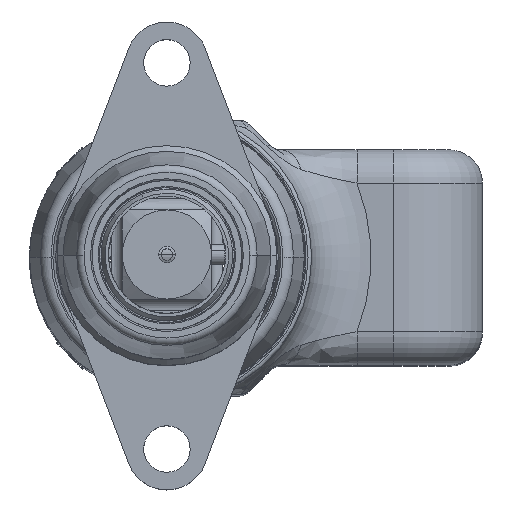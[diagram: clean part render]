
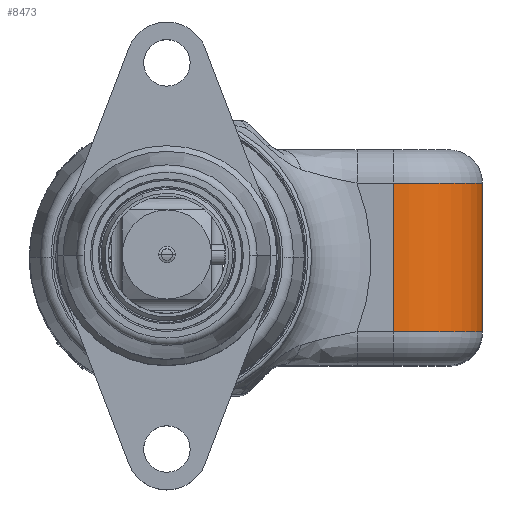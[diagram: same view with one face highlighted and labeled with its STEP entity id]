
A CAD part, top view. The second image highlights one B-rep face of the part: STEP entity #8473.
In plain terms, the highlighted cylindrical face has radius 19.05 mm (diameter 38.1 mm), a partial arc.
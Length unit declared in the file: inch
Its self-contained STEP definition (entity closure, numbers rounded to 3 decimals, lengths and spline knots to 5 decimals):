
#391 = AXIS2_PLACEMENT_3D ( 'NONE', #11016, #16229, #21240 ) ;
#1720 = FACE_OUTER_BOUND ( 'NONE', #22833, .T. ) ;
#2613 = ORIENTED_EDGE ( 'NONE', *, *, #25642, .F. ) ;
#3939 = CARTESIAN_POINT ( 'NONE',  ( 1.906, -0.906, 7.10174 ) ) ;
#4285 = CARTESIAN_POINT ( 'NONE',  ( 1.906, -1.031, 7.85174 ) ) ;
#4728 = LINE ( 'NONE', #9607, #15204 ) ;
#4892 = CARTESIAN_POINT ( 'NONE',  ( 2.656, 0.625, 7.10174 ) ) ;
#5201 = CIRCLE ( 'NONE', #23960, 0.75 ) ;
#7525 = EDGE_CURVE ( 'NONE', #30589, #18941, #5201, .T. ) ;
#8473 = ADVANCED_FACE ( 'NONE', ( #1720 ), #14521, .T. ) ;
#9607 = CARTESIAN_POINT ( 'NONE',  ( 2.656, -0.906, 7.10174 ) ) ;
#9762 = ORIENTED_EDGE ( 'NONE', *, *, #7525, .T. ) ;
#10299 = AXIS2_PLACEMENT_3D ( 'NONE', #3939, #26781, #26951 ) ;
#11016 = CARTESIAN_POINT ( 'NONE',  ( 1.906, -0.625, 7.10174 ) ) ;
#11268 = ORIENTED_EDGE ( 'NONE', *, *, #17403, .T. ) ;
#14521 = CYLINDRICAL_SURFACE ( 'NONE', #10299, 0.75 ) ;
#15204 = VECTOR ( 'NONE', #32630, 39.37008 ) ;
#15265 = VERTEX_POINT ( 'NONE', #27673 ) ;
#15829 = CARTESIAN_POINT ( 'NONE',  ( 2.656, -0.625, 7.10174 ) ) ;
#16229 = DIRECTION ( 'NONE',  ( 0., 1., 0. ) ) ;
#17403 = EDGE_CURVE ( 'NONE', #15265, #27849, #27791, .T. ) ;
#18941 = VERTEX_POINT ( 'NONE', #25438 ) ;
#19412 = DIRECTION ( 'NONE',  ( 0., 1., 0. ) ) ;
#21240 = DIRECTION ( 'NONE',  ( 0., 0., -1. ) ) ;
#22833 = EDGE_LOOP ( 'NONE', ( #2613, #9762, #26619, #11268 ) ) ;
#23960 = AXIS2_PLACEMENT_3D ( 'NONE', #25032, #32791, #24697 ) ;
#23974 = VECTOR ( 'NONE', #19412, 39.37008 ) ;
#24697 = DIRECTION ( 'NONE',  ( 0., 0., 1. ) ) ;
#25032 = CARTESIAN_POINT ( 'NONE',  ( 1.906, 0.625, 7.10174 ) ) ;
#25438 = CARTESIAN_POINT ( 'NONE',  ( 1.906, 0.625, 7.85174 ) ) ;
#25642 = EDGE_CURVE ( 'NONE', #30589, #27849, #4728, .T. ) ;
#26619 = ORIENTED_EDGE ( 'NONE', *, *, #31543, .F. ) ;
#26781 = DIRECTION ( 'NONE',  ( 0., -1., 0. ) ) ;
#26951 = DIRECTION ( 'NONE',  ( 0., 0., 1. ) ) ;
#26981 = LINE ( 'NONE', #4285, #23974 ) ;
#27673 = CARTESIAN_POINT ( 'NONE',  ( 1.906, -0.625, 7.85174 ) ) ;
#27791 = CIRCLE ( 'NONE', #391, 0.75 ) ;
#27849 = VERTEX_POINT ( 'NONE', #15829 ) ;
#30589 = VERTEX_POINT ( 'NONE', #4892 ) ;
#31543 = EDGE_CURVE ( 'NONE', #15265, #18941, #26981, .T. ) ;
#32630 = DIRECTION ( 'NONE',  ( 0., -1., 0. ) ) ;
#32791 = DIRECTION ( 'NONE',  ( 0., -1., 0. ) ) ;
